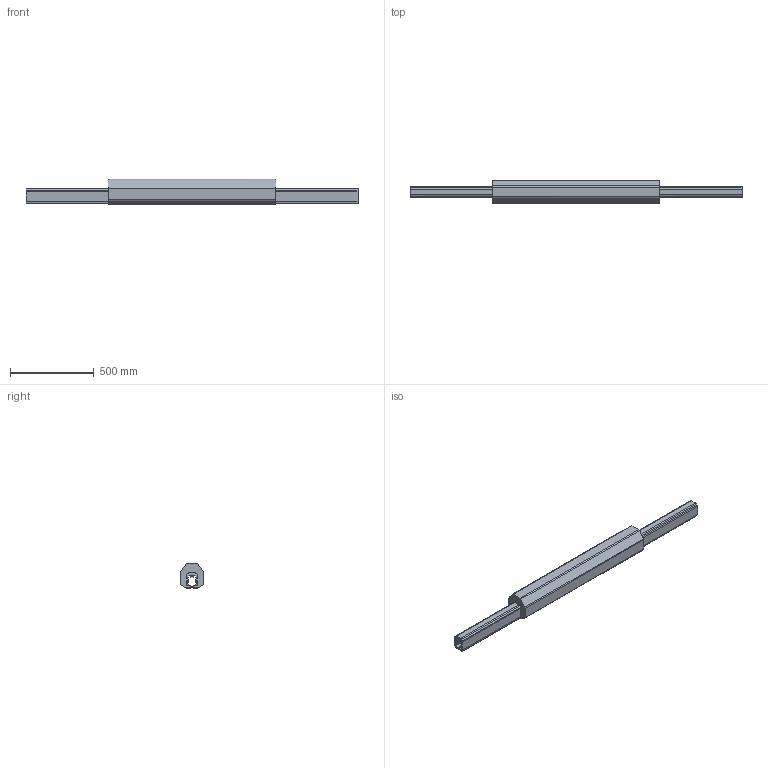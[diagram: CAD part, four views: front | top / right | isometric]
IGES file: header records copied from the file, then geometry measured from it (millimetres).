
Start section: Comment
Global section: file name: Joint_de_dilatation_2010_06.igs; native system:  By UGS Corp.; preprocessor: XPlus GENERIC/IGES 3.0; author: Author; organization: Title; date: 20100624.111344; units: millimetre
Bounding box: 1980 x 140 x 151 mm (x, y, z)
Surface area: 1501104.4 mm2 (no closed solid volume)
Topology: 0 solids, 0 shells, 236 faces, 1412 edges, 1412 vertices
Faces by surface type: bspline 236
